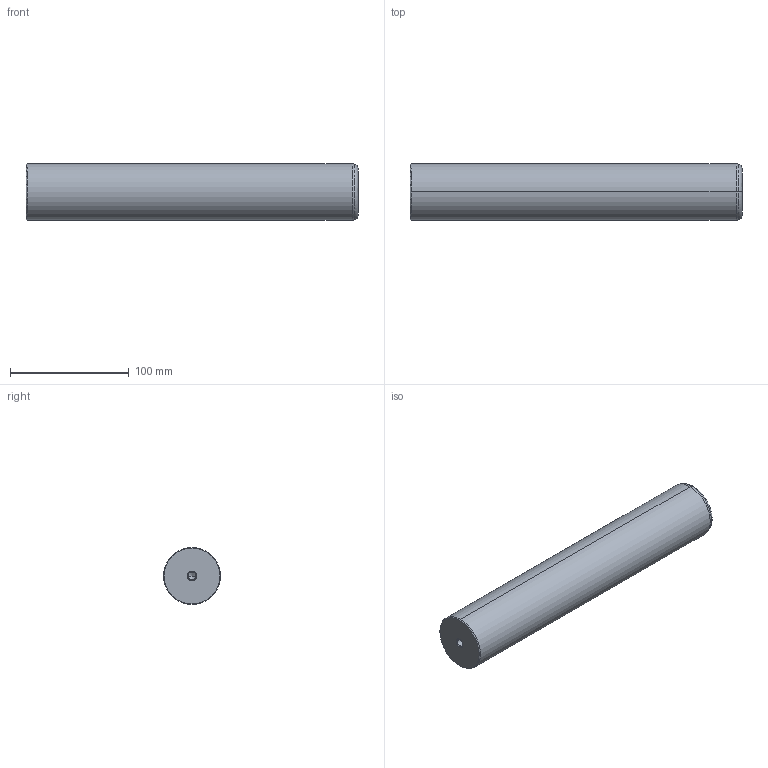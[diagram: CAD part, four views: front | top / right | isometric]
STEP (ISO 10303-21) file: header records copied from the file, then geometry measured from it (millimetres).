
FILE_DESCRIPTION(('CATIA V5 STEP Exchange'),'2;1');
FILE_NAME('C:\Users\Utente\Desktop\IO LAVORO\3D X SITO CF\X SITO\720\720-48x280.stp','2020-12-30T21:49:52+00:00',('none'),('none'),'CATIA Version 5 Release 20 GA (IN-10)','CATIA V5 STEP AP203','none');
FILE_SCHEMA(('CONFIG_CONTROL_DESIGN'));
Length unit declared in the file: millimetre
Products named in the file (1): 720-48x280
Bounding box: 280 x 48 x 48 mm (x, y, z)
Volume: 504165.5 mm3; surface area: 46450.4 mm2
Topology: 1 solids, 1 shells, 22 faces, 56 edges, 34 vertices
Faces by surface type: cone 12, cylinder 6, plane 2, torus 2
Entity records: 755 total; most frequent: CARTESIAN_POINT 216, ORIENTED_EDGE 104, DIRECTION 89, EDGE_CURVE 52, AXIS2_PLACEMENT_3D 50, VERTEX_POINT 34, CIRCLE 27, EDGE_LOOP 24
